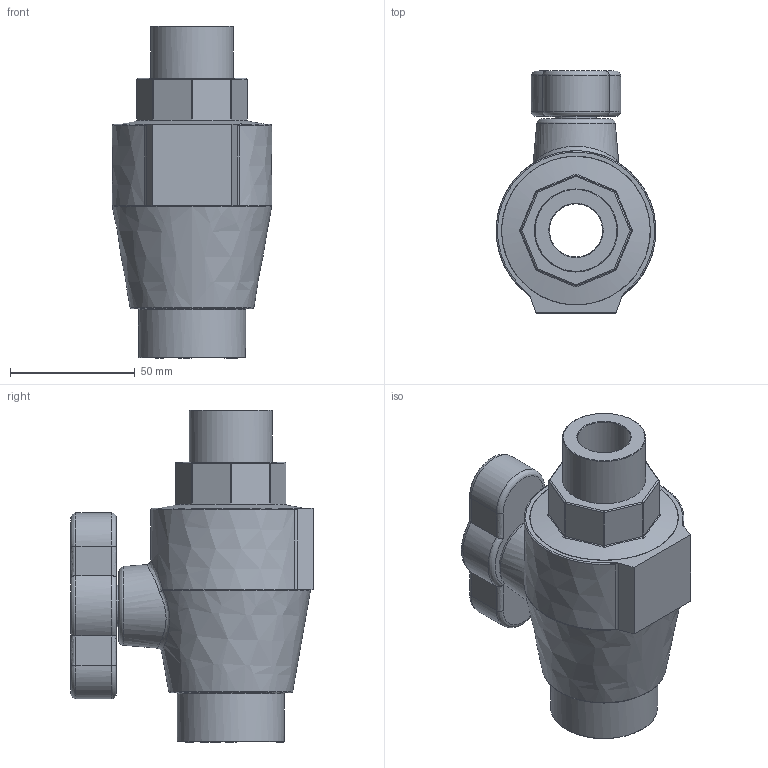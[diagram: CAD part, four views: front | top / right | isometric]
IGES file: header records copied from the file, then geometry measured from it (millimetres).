
Global section: file name: 03703020S00010_03703020SF0010; native system: Autodesk Inventor 2019; preprocessor: unknown; author: Lenora; date: 20220418.172821; units: millimetre
Bounding box: 63.99 x 97 x 133 mm (x, y, z)
Volume: 269157.3 mm3; surface area: 44195 mm2
Topology: 1 solids, 1 shells, 117 faces, 275 edges, 164 vertices
Faces by surface type: bspline 117
